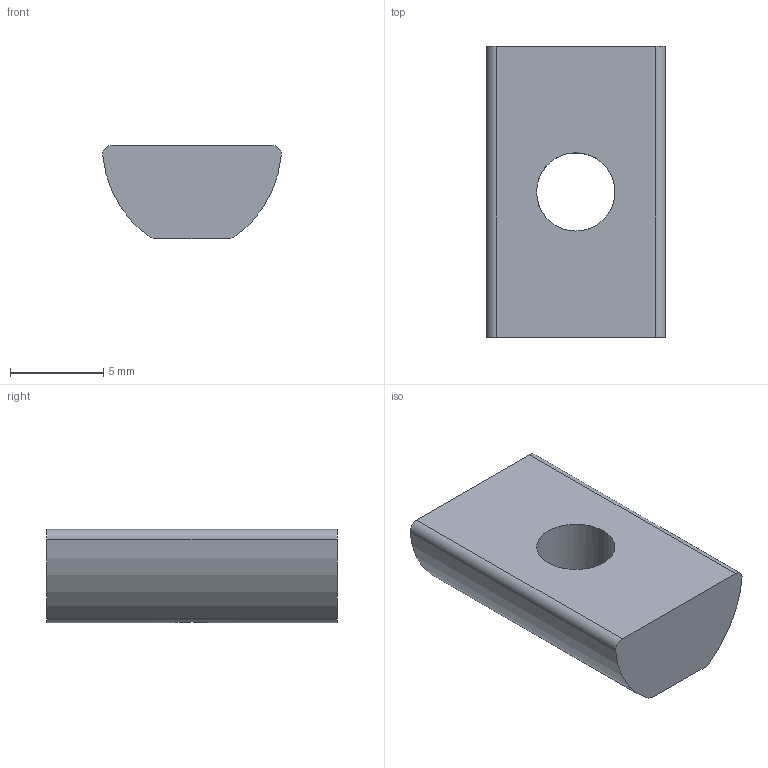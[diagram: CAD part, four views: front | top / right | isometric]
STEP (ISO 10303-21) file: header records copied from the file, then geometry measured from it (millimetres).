
FILE_DESCRIPTION (( 'STEP AP214' ), '1' );
FILE_NAME ('J3M5F.step', '2017-05-24T07:39:25', ( 'admin' ), ( '' ), 'SwSTEP 2.0', 'SolidWorks 2014', '' );
FILE_SCHEMA (( 'AUTOMOTIVE_DESIGN' ));
Length unit declared in the file: millimetre
Products named in the file (1): J3M5F
Bounding box: 9.57 x 15.6 x 5 mm (x, y, z)
Volume: 556.1 mm3; surface area: 511.5 mm2
Topology: 1 solids, 1 shells, 13 faces, 36 edges, 24 vertices
Faces by surface type: cylinder 8, plane 5
Entity records: 498 total; most frequent: CARTESIAN_POINT 94, DIRECTION 76, ORIENTED_EDGE 72, EDGE_CURVE 36, AXIS2_PLACEMENT_3D 30, VERTEX_POINT 24, VECTOR 16, LINE 16
